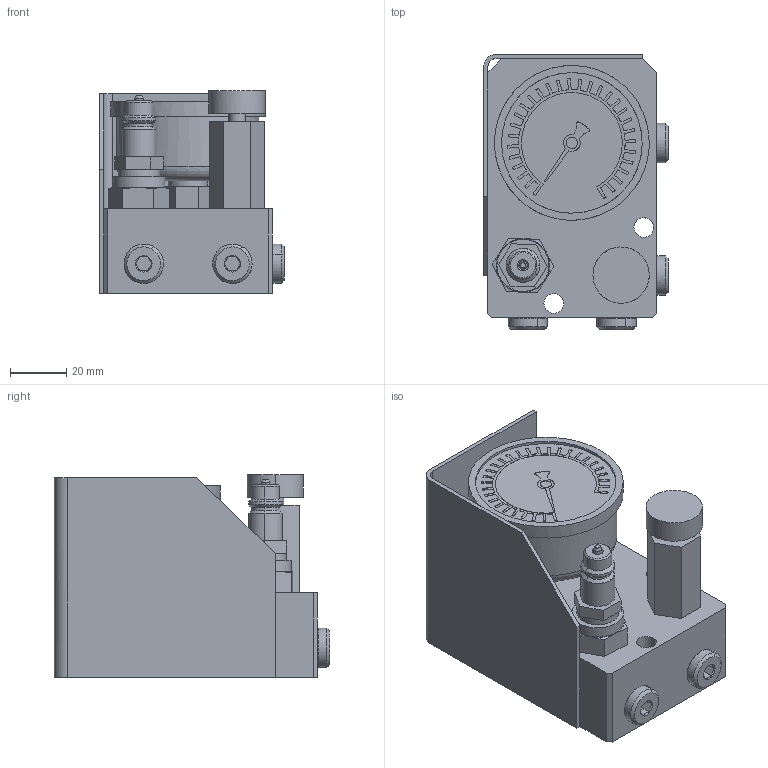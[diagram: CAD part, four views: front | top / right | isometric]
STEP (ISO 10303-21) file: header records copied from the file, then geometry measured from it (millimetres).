
FILE_DESCRIPTION(('CATIA V5 STEP Exchange'),'2;1');
FILE_NAME('W:\LIBRERIA TECAPRES®\FICHEROS CAD\PANEL DE CONTROL\P110CE.stp','2016-02-03T12:16:42+00:00',('none'),('none'),'CATIA Version 5 Release 17 (IN-10)','CATIA V5 STEP AP203','none');
FILE_SCHEMA(('CONFIG_CONTROL_DESIGN'));
Length unit declared in the file: millimetre
Products named in the file (1): P 110CE
Assembly tree (1 placements, depth 2):
  P 110CE
    #56
Bounding box: 65.66 x 97.8 x 72 mm (x, y, z)
Volume: 251321.8 mm3; surface area: 49119.5 mm2
Topology: 1 solids, 5 shells, 406 faces, 1077 edges, 696 vertices
Faces by surface type: plane 173, cylinder 134, cone 80, torus 19
Entity records: 16748 total; most frequent: CARTESIAN_POINT 7390, ORIENTED_EDGE 2140, DIRECTION 1503, EDGE_CURVE 1070, VERTEX_POINT 692, AXIS2_PLACEMENT_3D 574, VECTOR 571, LINE 571
